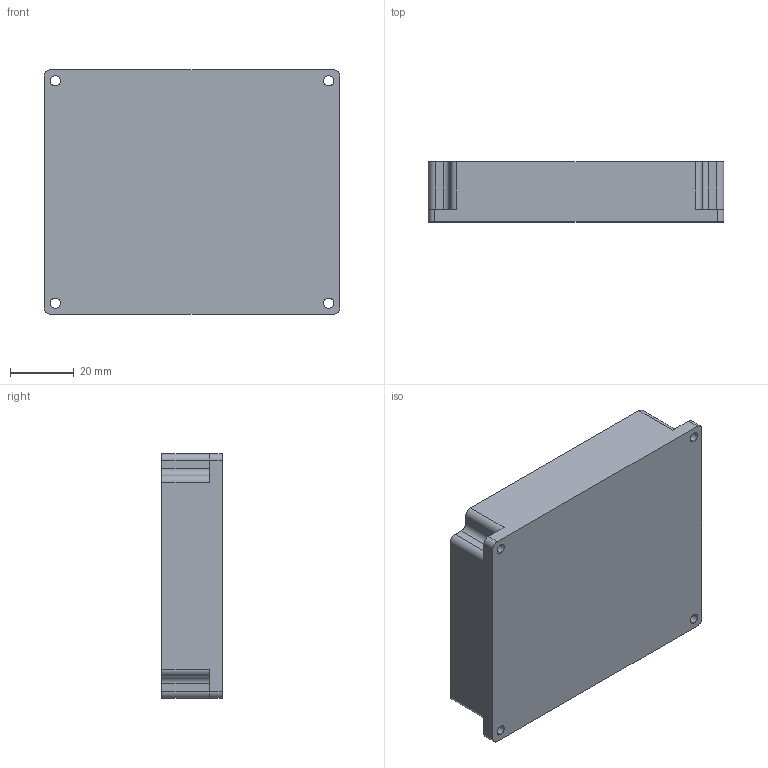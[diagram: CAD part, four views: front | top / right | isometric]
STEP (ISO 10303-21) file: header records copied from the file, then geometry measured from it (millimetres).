
FILE_DESCRIPTION(/* description */ (''),/* implementation_level */ '2;1');
FILE_NAME(/* name */ '新装配体_stp.stp',/* time_stamp */ '2026-07-21T15:39:31+08:00',/* author */ (''),/* organization */ (''),/* preprocessor_version */ 'ST-DEVELOPER v20.1',/* originating_system */ 'SIEMENS PLM Software NX2512.1700',/* authorisation */ '');
FILE_SCHEMA (('AUTOMOTIVE_DESIGN { 1 0 10303 214 3 1 1 1 }'));
Length unit declared in the file: millimetre
Products named in the file (2): 上盖; 装配体_stp
Assembly tree (1 placements, depth 2):
  装配体_stp
    上盖
Bounding box: 93 x 19 x 77 mm (x, y, z)
Volume: 132675 mm3; surface area: 35056.6 mm2
Topology: 2 solids, 15 shells, 231 faces, 598 edges, 373 vertices
Faces by surface type: cylinder 100, plane 97, cone 34
Entity records: 6932 total; most frequent: DIRECTION 1246, CARTESIAN_POINT 1178, ORIENTED_EDGE 1144, EDGE_CURVE 572, AXIS2_PLACEMENT_3D 441, VERTEX_POINT 373, LINE 364, VECTOR 364
